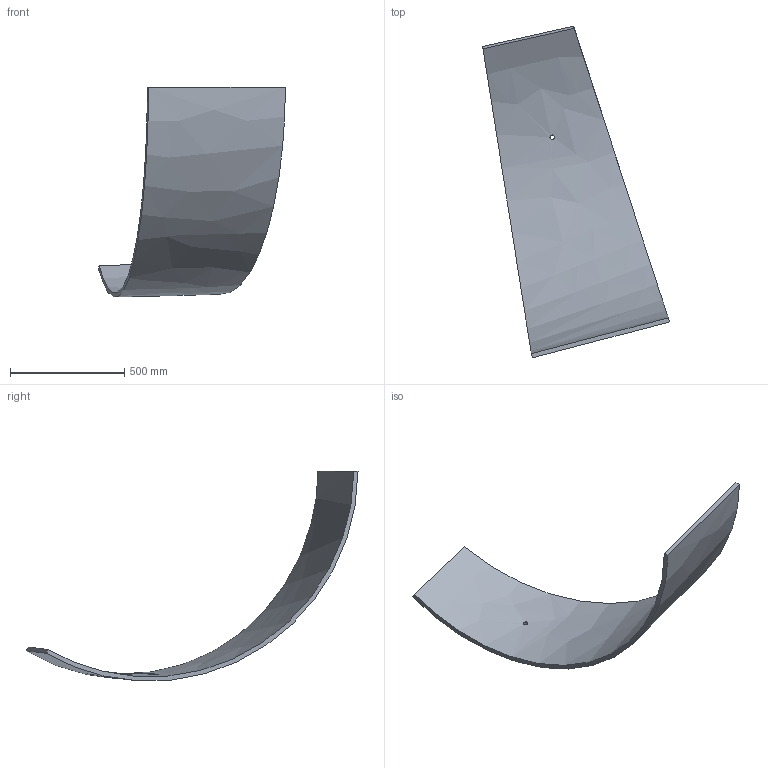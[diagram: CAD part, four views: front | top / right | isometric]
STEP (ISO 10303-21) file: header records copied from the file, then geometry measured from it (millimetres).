
FILE_DESCRIPTION (( 'STEP AP214' ), '1' );
FILE_NAME ('Section 12-A.STEP', '2025-01-09T19:43:25', ( '' ), ( '' ), 'SwSTEP 2.0', 'SolidWorks 2024', '' );
FILE_SCHEMA (( 'AUTOMOTIVE_DESIGN' ));
Length unit declared in the file: inch
Products named in the file (1): Section 12-A
Bounding box: 816.95 x 1452.52 x 917.53 mm (x, y, z)
Volume: 19308760.8 mm3; surface area: 2119780.1 mm2
Topology: 1 solids, 1 shells, 7 faces, 15 edges, 10 vertices
Faces by surface type: bspline 6, cylinder 1
Full cylindrical faces by diameter (mm): 19.447 x1
Entity records: 521 total; most frequent: CARTESIAN_POINT 384, ORIENTED_EDGE 28, EDGE_CURVE 14, B_SPLINE_CURVE_WITH_KNOTS 14, EDGE_LOOP 10, VERTEX_POINT 10, FACE_OUTER_BOUND 8, ADVANCED_FACE 7
